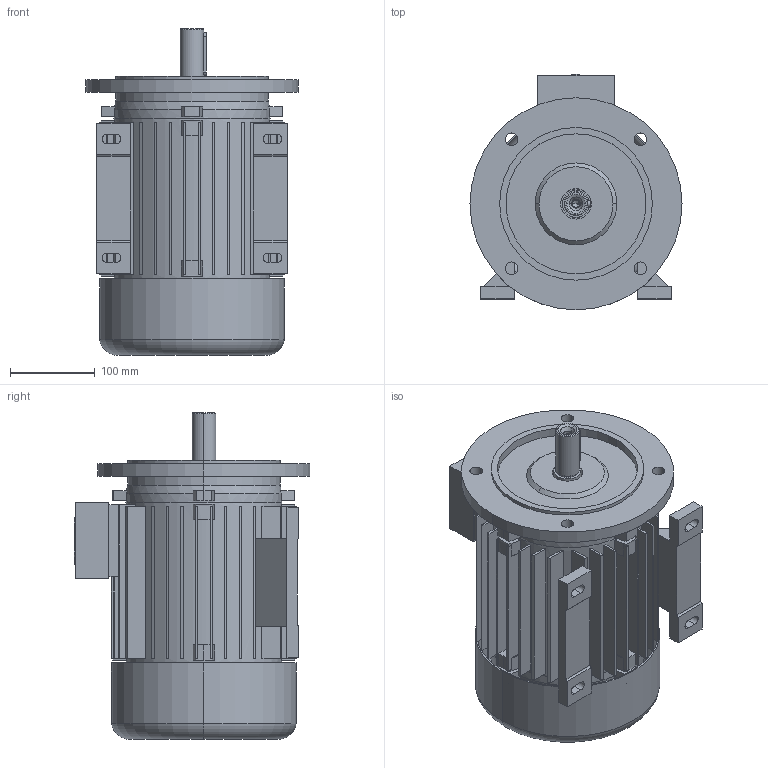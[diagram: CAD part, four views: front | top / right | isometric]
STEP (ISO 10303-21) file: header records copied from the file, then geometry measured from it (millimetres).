
FILE_DESCRIPTION (( 'STEP AP203' ), '1' );
FILE_NAME ('5AZ 112 config.STEP', '2018-07-03T07:51:29', ( '' ), ( '' ), 'SwSTEP 2.0', 'SolidWorks 2018', '' );
FILE_SCHEMA (( 'CONFIG_CONTROL_DESIGN' ));
Length unit declared in the file: millimetre
Products named in the file (1): 5AZ 112 config
Bounding box: 250 x 278 x 385 mm (x, y, z)
Volume: 3514418.8 mm3; surface area: 1008895.2 mm2
Topology: 7 solids, 7 shells, 509 faces, 1317 edges, 869 vertices
Faces by surface type: plane 338, cylinder 136, cone 22, bspline 9, torus 4
Entity records: 15777 total; most frequent: CARTESIAN_POINT 2927, DIRECTION 2699, ORIENTED_EDGE 2630, EDGE_CURVE 1315, AXIS2_PLACEMENT_3D 921, VERTEX_POINT 869, VECTOR 857, LINE 857
